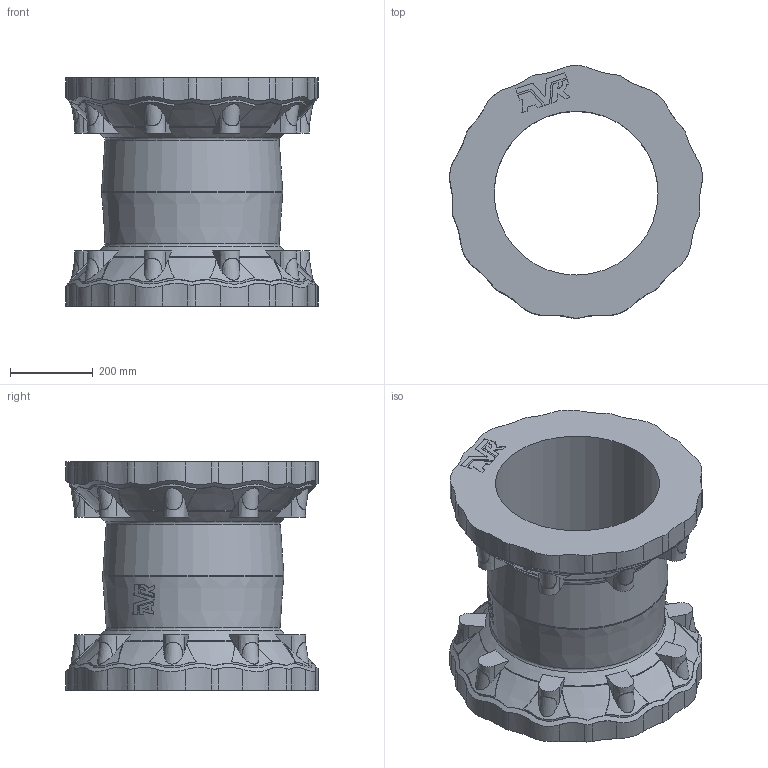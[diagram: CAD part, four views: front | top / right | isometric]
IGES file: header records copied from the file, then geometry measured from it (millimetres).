
Start section: SolidWorks IGES file using analytic representation for surfaces
Global section: file name: \\avksan2\techshare\PBM outline export from Enovia\O_631_00_DN350_AA0.igs; native system: SolidWorks 2012; preprocessor: SolidWorks 2012; author: pbm; date: 180703.073946; units: millimetre
Bounding box: 610.66 x 610.87 x 552.59 mm (x, y, z)
Surface area: 2088733.4 mm2 (no closed solid volume)
Topology: 0 solids, 0 shells, 515 faces, 3014 edges, 3008 vertices
Faces by surface type: revolution 336, bspline 179
